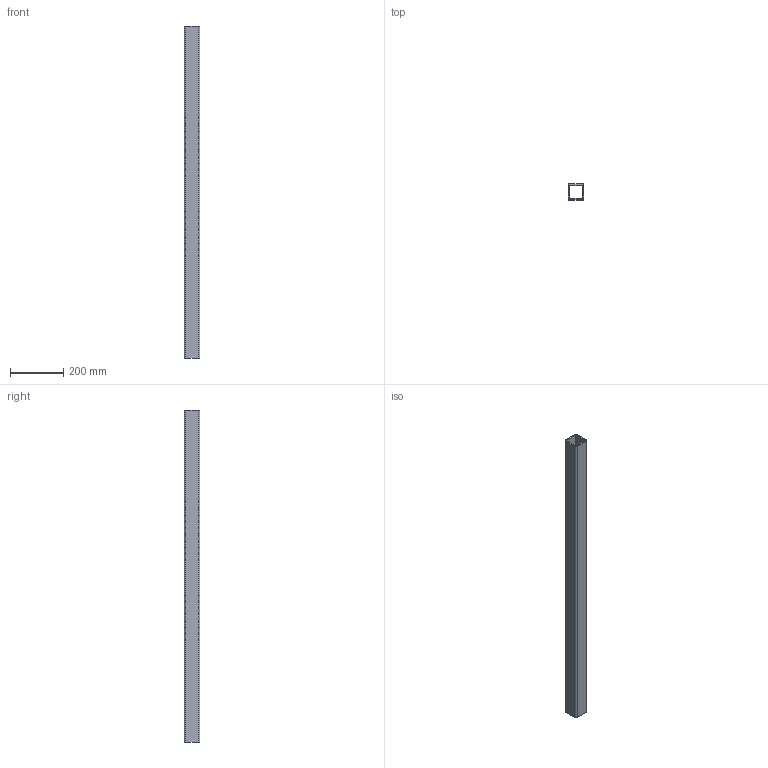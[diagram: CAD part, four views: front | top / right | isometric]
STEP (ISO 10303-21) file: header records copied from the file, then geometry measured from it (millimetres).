
FILE_DESCRIPTION((''),'2;1');
FILE_NAME('9526043000_ASM','2024-11-26T14:19:25',('Stephanie.Hoppe'),(''),'CREO PARAMETRIC BY PTC INC, 2022124','CREO PARAMETRIC BY PTC INC, 2022124','');
FILE_SCHEMA(('AUTOMOTIVE_DESIGN { 1 0 10303 214 1 1 1 1 }'));
Length unit declared in the file: millimetre
Products named in the file (2): 9207002000_AF4; 9526043000_ASM
Assembly tree (1 placements, depth 2):
  9526043000_ASM
    9207002000_AF4
Bounding box: 60 x 60 x 1250 mm (x, y, z)
Volume: 1337444.7 mm3; surface area: 537117.8 mm2
Topology: 1 solids, 1 shells, 18 faces, 56 edges, 48 vertices
Faces by surface type: plane 10, cylinder 8
Entity records: 1869 total; most frequent: DIRECTION 172, CARTESIAN_POINT 150, COLOUR_RGB 144, PROPERTY_DEFINITION 112, REPRESENTATION 111, PROPERTY_DEFINITION_REPRESENTATION 111, DESCRIPTIVE_REPRESENTATION_ITEM 99, GENERAL_PROPERTY 97
